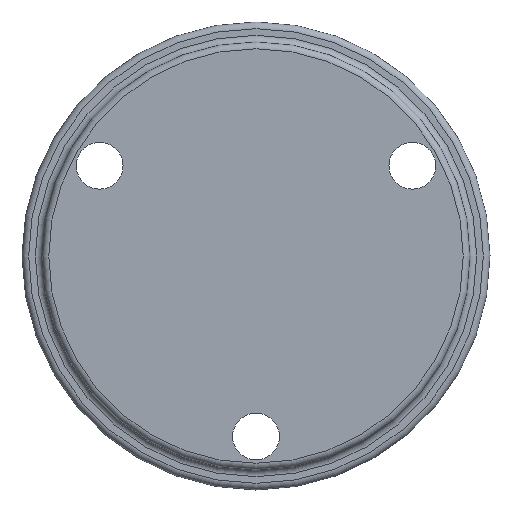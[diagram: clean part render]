
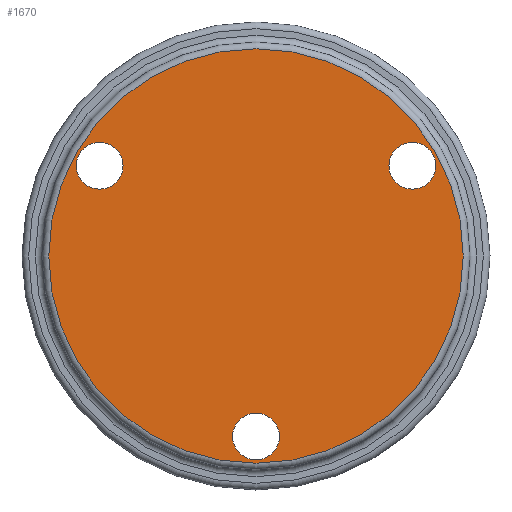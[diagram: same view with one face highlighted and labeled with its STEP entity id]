
A CAD part, front view. The second image highlights one B-rep face of the part: STEP entity #1670.
In plain terms, the highlighted planar face has unit normal (0, -1, 0).
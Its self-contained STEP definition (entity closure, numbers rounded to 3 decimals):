
#41=FACE_BOUND('',#374,.T.);
#42=FACE_BOUND('',#375,.T.);
#43=FACE_BOUND('',#376,.T.);
#104=CIRCLE('',#1825,3.5);
#106=CIRCLE('',#1828,3.5);
#108=CIRCLE('',#1831,3.5);
#132=CIRCLE('',#1869,31.);
#261=FACE_OUTER_BOUND('',#373,.T.);
#373=EDGE_LOOP('',(#1499));
#374=EDGE_LOOP('',(#1500));
#375=EDGE_LOOP('',(#1501));
#376=EDGE_LOOP('',(#1502));
#802=VERTEX_POINT('',#2781);
#804=VERTEX_POINT('',#2787);
#806=VERTEX_POINT('',#2793);
#826=VERTEX_POINT('',#2856);
#1018=EDGE_CURVE('',#802,#802,#104,.T.);
#1021=EDGE_CURVE('',#804,#804,#106,.T.);
#1024=EDGE_CURVE('',#806,#806,#108,.T.);
#1052=EDGE_CURVE('',#826,#826,#132,.T.);
#1499=ORIENTED_EDGE('',*,*,#1052,.T.);
#1500=ORIENTED_EDGE('',*,*,#1018,.T.);
#1501=ORIENTED_EDGE('',*,*,#1021,.T.);
#1502=ORIENTED_EDGE('',*,*,#1024,.T.);
#1575=PLANE('',#1871);
#1670=ADVANCED_FACE('',(#261,#41,#42,#43),#1575,.T.);
#1825=AXIS2_PLACEMENT_3D('',#2783,#2270,#2271);
#1828=AXIS2_PLACEMENT_3D('',#2789,#2277,#2278);
#1831=AXIS2_PLACEMENT_3D('',#2795,#2284,#2285);
#1869=AXIS2_PLACEMENT_3D('',#2857,#2364,#2365);
#1871=AXIS2_PLACEMENT_3D('',#2859,#2368,#2369);
#2270=DIRECTION('center_axis',(0.,1.,0.));
#2271=DIRECTION('ref_axis',(1.,0.,0.));
#2277=DIRECTION('center_axis',(0.,1.,0.));
#2278=DIRECTION('ref_axis',(1.,0.,0.));
#2284=DIRECTION('center_axis',(0.,1.,0.));
#2285=DIRECTION('ref_axis',(1.,0.,0.));
#2364=DIRECTION('center_axis',(0.,-1.,0.));
#2365=DIRECTION('ref_axis',(1.,0.,0.));
#2368=DIRECTION('center_axis',(0.,-1.,0.));
#2369=DIRECTION('ref_axis',(0.,0.,-1.));
#2781=CARTESIAN_POINT('',(-26.883,0.,13.5));
#2783=CARTESIAN_POINT('Origin',(-23.383,0.,13.5));
#2787=CARTESIAN_POINT('',(-3.5,0.,-27.));
#2789=CARTESIAN_POINT('Origin',(0.,0.,-27.));
#2793=CARTESIAN_POINT('',(19.883,0.,13.5));
#2795=CARTESIAN_POINT('Origin',(23.383,0.,13.5));
#2856=CARTESIAN_POINT('',(0.,0.,31.));
#2857=CARTESIAN_POINT('Origin',(0.,0.,0.));
#2859=CARTESIAN_POINT('Origin',(0.,0.,0.));
